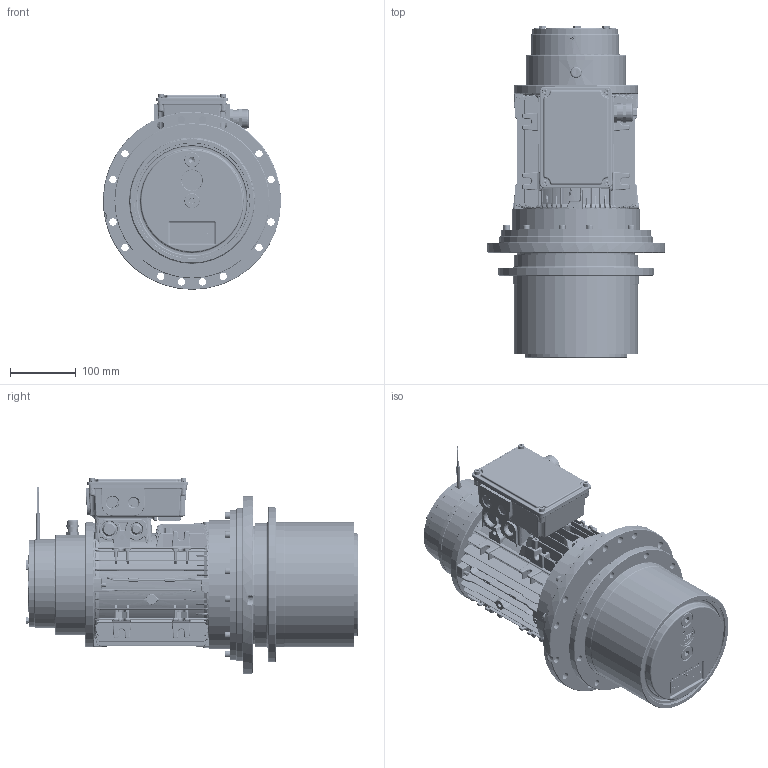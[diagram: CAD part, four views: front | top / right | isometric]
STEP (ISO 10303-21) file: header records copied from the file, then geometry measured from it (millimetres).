
FILE_DESCRIPTION(/* description */ (''),/* implementation_level */ '2;1');
FILE_NAME(/* name */ 'Z:\SITO WEB 2024\Dual Drive\MRH190\MRH190-PMAC.stp',/* time_stamp */ '2024-03-21T15:12:40+01:00',/* author */ ('cad3'),/* organization */ (''),/* preprocessor_version */ 'ST-DEVELOPER v18.1',/* originating_system */ 'Autodesk Inventor 2022',/* authorisation */ '');
FILE_SCHEMA (('AUTOMOTIVE_DESIGN { 1 0 10303 214 3 1 1 }'));
Products named in the file (1): MRH190-PMAC
Bounding box: 270 x 503 x 296.6 mm (x, y, z)
Volume: 6375144.4 mm3; surface area: 1708889.8 mm2
Topology: 17 solids, 96 shells, 16512 faces, 43220 edges, 27320 vertices
Faces by surface type: plane 8198, cylinder 4715, bspline 1579, cone 1147, torus 760, sphere 113
Full cylindrical faces by diameter (mm): 0.5 x2, 1.5 x2, 2 x20, 2.5 x16, 3 x8, 3.2 x4, 3.242 x3, 3.4 x1, 4 x4, 4.134 x4, 4.2 x4, 4.5 x2, 4.917 x10, 5 x38, 5.2 x6, 5.3 x8, 5.4 x1, 5.5 x1, 6 x27, 6.2 x6, 6.3 x5, 6.4 x3, 6.5 x25, 6.8 x4, 7.8 x9, 8 x14, 8.4 x4, 8.5 x11, 8.75 x3, 8.88 x3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
Entity records: 694716 total; most frequent: CARTESIAN_POINT 277872, ORIENTED_EDGE 86194, DIRECTION 81359, EDGE_CURVE 43097, AXIS2_PLACEMENT_3D 29946, VERTEX_POINT 27355, LINE 21467, VECTOR 21467
